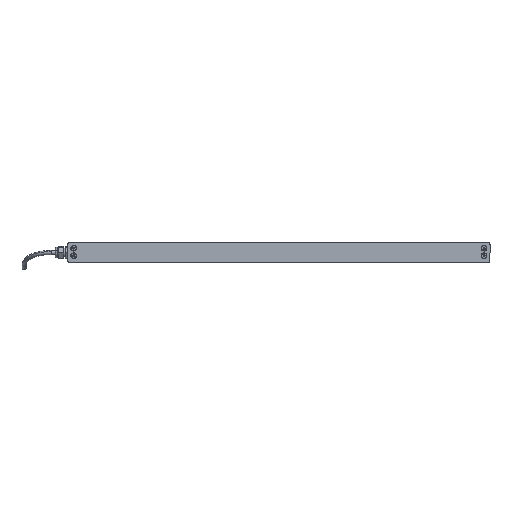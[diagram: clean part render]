
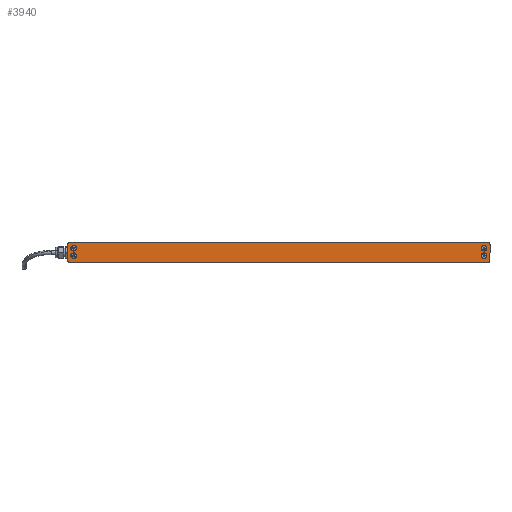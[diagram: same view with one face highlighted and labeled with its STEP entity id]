
A CAD part, left-side view. The second image highlights one B-rep face of the part: STEP entity #3940.
In plain terms, the highlighted planar face has unit normal (-1, 0, 0) as drawn and (0, 0, -1) by its records, which use the part's own axes.
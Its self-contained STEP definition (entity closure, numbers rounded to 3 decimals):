
#101 = CARTESIAN_POINT ( 'NONE',  ( -411.9, 8.5, 0. ) ) ;
#264 = DIRECTION ( 'NONE',  ( 0., 0., -1. ) ) ;
#334 = ORIENTED_EDGE ( 'NONE', *, *, #9652, .F. ) ;
#535 = ORIENTED_EDGE ( 'NONE', *, *, #11207, .F. ) ;
#676 = CARTESIAN_POINT ( 'NONE',  ( 406.3, 8.5, 0. ) ) ;
#732 = FACE_OUTER_BOUND ( 'NONE', #3763, .T. ) ;
#750 = DIRECTION ( 'NONE',  ( -1., 0., 0. ) ) ;
#1093 = VERTEX_POINT ( 'NONE', #15201 ) ;
#1271 = ORIENTED_EDGE ( 'NONE', *, *, #3066, .F. ) ;
#1363 = ORIENTED_EDGE ( 'NONE', *, *, #2080, .F. ) ;
#1448 = CIRCLE ( 'NONE', #14062, 4. ) ;
#1463 = CARTESIAN_POINT ( 'NONE',  ( 406.3, 8.5, 0. ) ) ;
#1656 = DIRECTION ( 'NONE',  ( -1., 0., 0. ) ) ;
#1714 = DIRECTION ( 'NONE',  ( 0., 0., 1. ) ) ;
#1782 = CARTESIAN_POINT ( 'NONE',  ( 418., -16., 0. ) ) ;
#1909 = FACE_BOUND ( 'NONE', #7122, .T. ) ;
#1960 = AXIS2_PLACEMENT_3D ( 'NONE', #5526, #11534, #10356 ) ;
#2080 = EDGE_CURVE ( 'NONE', #1093, #14750, #4392, .T. ) ;
#2336 = DIRECTION ( 'NONE',  ( 0., 0., -1. ) ) ;
#2439 = AXIS2_PLACEMENT_3D ( 'NONE', #8061, #3484, #750 ) ;
#2648 = ORIENTED_EDGE ( 'NONE', *, *, #14916, .F. ) ;
#2735 = VERTEX_POINT ( 'NONE', #6329 ) ;
#2787 = VERTEX_POINT ( 'NONE', #8056 ) ;
#3006 = CARTESIAN_POINT ( 'NONE',  ( -400.7, 8.5, 0. ) ) ;
#3066 = EDGE_CURVE ( 'NONE', #11358, #12485, #6709, .T. ) ;
#3190 = AXIS2_PLACEMENT_3D ( 'NONE', #7044, #11864, #12249 ) ;
#3225 = VECTOR ( 'NONE', #14879, 1000. ) ;
#3345 = CARTESIAN_POINT ( 'NONE',  ( -406.3, 8.5, 0. ) ) ;
#3484 = DIRECTION ( 'NONE',  ( 0., 0., 1. ) ) ;
#3596 = DIRECTION ( 'NONE',  ( 0., 0., 1. ) ) ;
#3649 = EDGE_CURVE ( 'NONE', #15113, #8099, #6479, .T. ) ;
#3763 = EDGE_LOOP ( 'NONE', ( #535, #11851, #11184, #15109, #4565, #4772, #6091, #2648 ) ) ;
#3767 = AXIS2_PLACEMENT_3D ( 'NONE', #14852, #7563, #1656 ) ;
#3920 = ORIENTED_EDGE ( 'NONE', *, *, #12792, .F. ) ;
#3940 = ADVANCED_FACE ( 'NONE', ( #7656, #15181, #6712, #1909, #732 ), #7881, .T. ) ;
#4011 = VECTOR ( 'NONE', #11472, 1000. ) ;
#4180 = AXIS2_PLACEMENT_3D ( 'NONE', #4334, #12808, #15245 ) ;
#4215 = DIRECTION ( 'NONE',  ( -1., 0., 0. ) ) ;
#4334 = CARTESIAN_POINT ( 'NONE',  ( -406.3, 8.5, 0. ) ) ;
#4392 = CIRCLE ( 'NONE', #11714, 5.6 ) ;
#4506 = AXIS2_PLACEMENT_3D ( 'NONE', #3345, #2336, #11957 ) ;
#4565 = ORIENTED_EDGE ( 'NONE', *, *, #8610, .F. ) ;
#4615 = VERTEX_POINT ( 'NONE', #15516 ) ;
#4772 = ORIENTED_EDGE ( 'NONE', *, *, #11870, .F. ) ;
#5354 = CARTESIAN_POINT ( 'NONE',  ( 414., 20., 0. ) ) ;
#5496 = CIRCLE ( 'NONE', #13585, 4. ) ;
#5526 = CARTESIAN_POINT ( 'NONE',  ( 414., 16., 0. ) ) ;
#5815 = CARTESIAN_POINT ( 'NONE',  ( 414., -20., 0. ) ) ;
#5887 = AXIS2_PLACEMENT_3D ( 'NONE', #676, #15055, #4215 ) ;
#6073 = CARTESIAN_POINT ( 'NONE',  ( -414., 20., 0. ) ) ;
#6091 = ORIENTED_EDGE ( 'NONE', *, *, #3649, .F. ) ;
#6329 = CARTESIAN_POINT ( 'NONE',  ( 400.7, -6.3, 0. ) ) ;
#6415 = CARTESIAN_POINT ( 'NONE',  ( 400.7, 8.5, 0. ) ) ;
#6479 = CIRCLE ( 'NONE', #2439, 4. ) ;
#6525 = AXIS2_PLACEMENT_3D ( 'NONE', #1463, #264, #12606 ) ;
#6709 = CIRCLE ( 'NONE', #4180, 5.6 ) ;
#6712 = FACE_BOUND ( 'NONE', #11408, .T. ) ;
#6730 = DIRECTION ( 'NONE',  ( 0., 0., -1. ) ) ;
#6943 = EDGE_CURVE ( 'NONE', #2735, #10644, #13824, .T. ) ;
#7044 = CARTESIAN_POINT ( 'NONE',  ( 406.3, -6.3, 0. ) ) ;
#7122 = EDGE_LOOP ( 'NONE', ( #12660, #1363 ) ) ;
#7392 = DIRECTION ( 'NONE',  ( 0., 0., -1. ) ) ;
#7510 = CARTESIAN_POINT ( 'NONE',  ( -414., 20., 0. ) ) ;
#7518 = CIRCLE ( 'NONE', #6525, 5.6 ) ;
#7563 = DIRECTION ( 'NONE',  ( 0., 0., 1. ) ) ;
#7644 = EDGE_CURVE ( 'NONE', #12950, #12046, #7518, .T. ) ;
#7656 = FACE_BOUND ( 'NONE', #13276, .T. ) ;
#7664 = VECTOR ( 'NONE', #13399, 1000. ) ;
#7681 = LINE ( 'NONE', #1782, #4011 ) ;
#7847 = CARTESIAN_POINT ( 'NONE',  ( -418., -16., 0. ) ) ;
#7881 = PLANE ( 'NONE',  #1960 ) ;
#8056 = CARTESIAN_POINT ( 'NONE',  ( 418., -16., 0. ) ) ;
#8061 = CARTESIAN_POINT ( 'NONE',  ( -414., 16., 0. ) ) ;
#8099 = VERTEX_POINT ( 'NONE', #13763 ) ;
#8169 = DIRECTION ( 'NONE',  ( -1., 0., 0. ) ) ;
#8610 = EDGE_CURVE ( 'NONE', #9195, #9725, #5496, .T. ) ;
#8868 = EDGE_CURVE ( 'NONE', #12485, #11358, #12082, .T. ) ;
#9162 = CARTESIAN_POINT ( 'NONE',  ( 406.3, -6.3, 0. ) ) ;
#9195 = VERTEX_POINT ( 'NONE', #7847 ) ;
#9652 = EDGE_CURVE ( 'NONE', #10644, #2735, #12842, .T. ) ;
#9725 = VERTEX_POINT ( 'NONE', #15585 ) ;
#9835 = CARTESIAN_POINT ( 'NONE',  ( -414., -20., 0. ) ) ;
#9892 = CARTESIAN_POINT ( 'NONE',  ( 411.9, 8.5, 0. ) ) ;
#9926 = DIRECTION ( 'NONE',  ( -1., 0., 0. ) ) ;
#10047 = CARTESIAN_POINT ( 'NONE',  ( -411.9, -6.3, 0. ) ) ;
#10273 = LINE ( 'NONE', #10505, #14989 ) ;
#10356 = DIRECTION ( 'NONE',  ( -1., 0., 0. ) ) ;
#10505 = CARTESIAN_POINT ( 'NONE',  ( -418., -16., 0. ) ) ;
#10644 = VERTEX_POINT ( 'NONE', #11549 ) ;
#11018 = LINE ( 'NONE', #9835, #7664 ) ;
#11151 = LINE ( 'NONE', #7510, #3225 ) ;
#11184 = ORIENTED_EDGE ( 'NONE', *, *, #14199, .F. ) ;
#11207 = EDGE_CURVE ( 'NONE', #4615, #15399, #12626, .T. ) ;
#11358 = VERTEX_POINT ( 'NONE', #101 ) ;
#11408 = EDGE_LOOP ( 'NONE', ( #1271, #14295 ) ) ;
#11469 = EDGE_CURVE ( 'NONE', #2787, #4615, #7681, .T. ) ;
#11471 = DIRECTION ( 'NONE',  ( -1., 0., 0. ) ) ;
#11472 = DIRECTION ( 'NONE',  ( 0., 1., 0. ) ) ;
#11522 = DIRECTION ( 'NONE',  ( -1., 0., 0. ) ) ;
#11534 = DIRECTION ( 'NONE',  ( 0., 0., -1. ) ) ;
#11549 = CARTESIAN_POINT ( 'NONE',  ( 411.9, -6.3, 0. ) ) ;
#11573 = CIRCLE ( 'NONE', #12084, 5.6 ) ;
#11673 = DIRECTION ( 'NONE',  ( 0., 0., -1. ) ) ;
#11714 = AXIS2_PLACEMENT_3D ( 'NONE', #14848, #7392, #9926 ) ;
#11749 = CARTESIAN_POINT ( 'NONE',  ( -414., -16., 0. ) ) ;
#11851 = ORIENTED_EDGE ( 'NONE', *, *, #11469, .F. ) ;
#11864 = DIRECTION ( 'NONE',  ( 0., 0., -1. ) ) ;
#11870 = EDGE_CURVE ( 'NONE', #8099, #9195, #10273, .T. ) ;
#11957 = DIRECTION ( 'NONE',  ( -1., 0., 0. ) ) ;
#12046 = VERTEX_POINT ( 'NONE', #6415 ) ;
#12082 = CIRCLE ( 'NONE', #4506, 5.6 ) ;
#12084 = AXIS2_PLACEMENT_3D ( 'NONE', #12802, #11673, #11522 ) ;
#12163 = EDGE_LOOP ( 'NONE', ( #12750, #334 ) ) ;
#12249 = DIRECTION ( 'NONE',  ( -1., 0., 0. ) ) ;
#12485 = VERTEX_POINT ( 'NONE', #3006 ) ;
#12606 = DIRECTION ( 'NONE',  ( -1., 0., 0. ) ) ;
#12626 = CIRCLE ( 'NONE', #3767, 4. ) ;
#12655 = DIRECTION ( 'NONE',  ( 0., -1., 0. ) ) ;
#12660 = ORIENTED_EDGE ( 'NONE', *, *, #15298, .F. ) ;
#12677 = EDGE_CURVE ( 'NONE', #9725, #13726, #11018, .T. ) ;
#12750 = ORIENTED_EDGE ( 'NONE', *, *, #6943, .F. ) ;
#12792 = EDGE_CURVE ( 'NONE', #12046, #12950, #15244, .T. ) ;
#12802 = CARTESIAN_POINT ( 'NONE',  ( -406.3, -6.3, 0. ) ) ;
#12808 = DIRECTION ( 'NONE',  ( 0., 0., -1. ) ) ;
#12842 = CIRCLE ( 'NONE', #13090, 5.6 ) ;
#12950 = VERTEX_POINT ( 'NONE', #9892 ) ;
#13090 = AXIS2_PLACEMENT_3D ( 'NONE', #9162, #6730, #11471 ) ;
#13276 = EDGE_LOOP ( 'NONE', ( #3920, #13738 ) ) ;
#13399 = DIRECTION ( 'NONE',  ( 1., 0., 0. ) ) ;
#13585 = AXIS2_PLACEMENT_3D ( 'NONE', #11749, #3596, #8169 ) ;
#13726 = VERTEX_POINT ( 'NONE', #5815 ) ;
#13738 = ORIENTED_EDGE ( 'NONE', *, *, #7644, .F. ) ;
#13763 = CARTESIAN_POINT ( 'NONE',  ( -418., 16., 0. ) ) ;
#13794 = DIRECTION ( 'NONE',  ( 1., 0., 0. ) ) ;
#13824 = CIRCLE ( 'NONE', #3190, 5.6 ) ;
#14062 = AXIS2_PLACEMENT_3D ( 'NONE', #14664, #1714, #13794 ) ;
#14199 = EDGE_CURVE ( 'NONE', #13726, #2787, #1448, .T. ) ;
#14295 = ORIENTED_EDGE ( 'NONE', *, *, #8868, .F. ) ;
#14664 = CARTESIAN_POINT ( 'NONE',  ( 414., -16., 0. ) ) ;
#14750 = VERTEX_POINT ( 'NONE', #10047 ) ;
#14848 = CARTESIAN_POINT ( 'NONE',  ( -406.3, -6.3, 0. ) ) ;
#14852 = CARTESIAN_POINT ( 'NONE',  ( 414., 16., 0. ) ) ;
#14879 = DIRECTION ( 'NONE',  ( -1., 0., 0. ) ) ;
#14916 = EDGE_CURVE ( 'NONE', #15399, #15113, #11151, .T. ) ;
#14989 = VECTOR ( 'NONE', #12655, 1000. ) ;
#15055 = DIRECTION ( 'NONE',  ( 0., 0., -1. ) ) ;
#15109 = ORIENTED_EDGE ( 'NONE', *, *, #12677, .F. ) ;
#15113 = VERTEX_POINT ( 'NONE', #6073 ) ;
#15181 = FACE_BOUND ( 'NONE', #12163, .T. ) ;
#15201 = CARTESIAN_POINT ( 'NONE',  ( -400.7, -6.3, 0. ) ) ;
#15244 = CIRCLE ( 'NONE', #5887, 5.6 ) ;
#15245 = DIRECTION ( 'NONE',  ( -1., 0., 0. ) ) ;
#15298 = EDGE_CURVE ( 'NONE', #14750, #1093, #11573, .T. ) ;
#15399 = VERTEX_POINT ( 'NONE', #5354 ) ;
#15516 = CARTESIAN_POINT ( 'NONE',  ( 418., 16., 0. ) ) ;
#15585 = CARTESIAN_POINT ( 'NONE',  ( -414., -20., 0. ) ) ;
